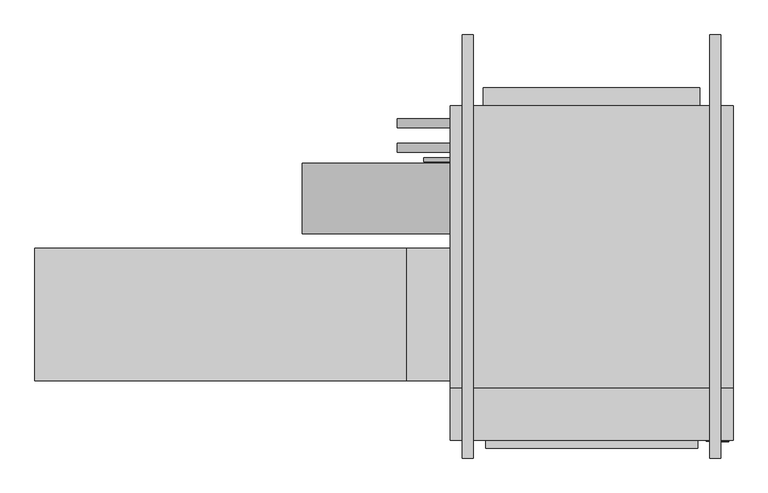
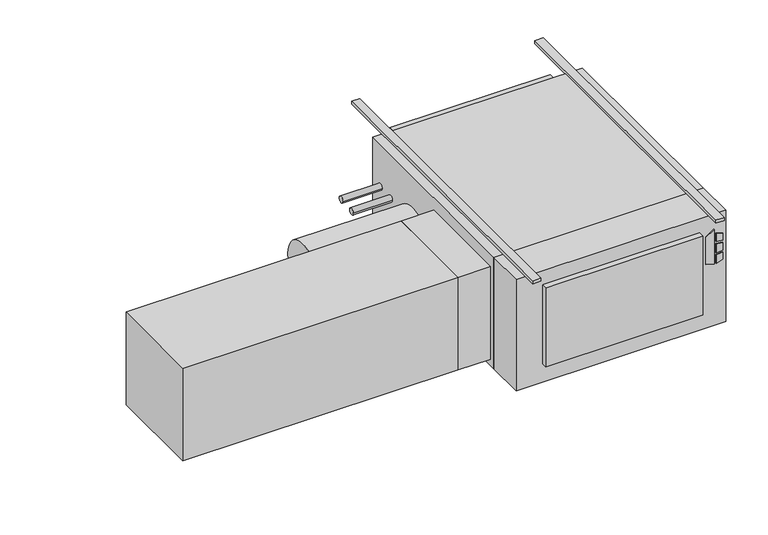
"""IFC4 building model written with IfcOpenShell, lengths in millimetres: proxy geometry."""

from ifc_helpers import new_model, si_unit, point, frame, frame_2d, origin, origin_with_axes, place, context, project, spatial, polyline, circle_curve, trimmed, segment, composite_curve, outline, extrude, source, transform, mapped, element, save


def mechanical_equipment_f4e936ba(model_context):
    return source(origin(), model_context, "Body", "SweptSolid", [
        extrude(outline(polyline([(-193.2519297, 481.0868862), (-203.2, 513.2602728), (-61.0290756, 513.2602728), (-84.0510817, 481.0868862), (-193.2519297, 481.0868862)])), frame((0.0, -797.052, 0.0), z_axis=(0.0, 1.0, 0.0), x_axis=(0.0, 0.0, 1.0)), (0.0, 0.0, 1.0), 3.175),
        extrude(outline(polyline([(-114.2526443, 520.0186058), (-117.4550368, 546.1), (-88.2261958, 546.1), (-80.1617807, 520.0186058), (-114.2526443, 520.0186058)])), frame((0.0, -797.052, 0.0), z_axis=(0.0, 1.0, 0.0), x_axis=(0.0, 0.0, 1.0)), (0.0, 0.0, 1.0), 3.175),
        extrude(outline(polyline([(-166.1161712, 546.1), (-169.7816721, 520.0186058), (-203.2, 520.0186058), (-194.5657628, 546.1), (-166.1161712, 546.1)])), frame((0.0, -797.052, 0.0), z_axis=(0.0, 1.0, 0.0), x_axis=(0.0, 0.0, 1.0)), (0.0, 0.0, 1.0), 3.175),
        extrude(outline(polyline([(-126.8010097, 546.1), (-124.5191834, 520.0186058), (-160.4567319, 520.0186058), (-157.7154669, 546.1), (-126.8010097, 546.1)])), frame((0.0, -797.052, 0.0), z_axis=(0.0, 1.0, 0.0), x_axis=(0.0, 0.0, 1.0)), (0.0, 0.0, 1.0), 3.175),
        extrude(outline(polyline([(558.8, -793.877), (-254.0, -793.877), (-254.0, -644.525), (558.8, -644.525), (558.8, -793.877)])), frame((0.0, 0.0, -457.2), z_axis=(0.0, 0.0, 1.0), x_axis=(1.0, 0.0, 0.0)), (0.0, 0.0, 1.0), 457.2),
        extrude(outline(polyline([(457.2, -816.229), (-152.4, -816.229), (-152.4, -793.877), (457.2, -793.877), (457.2, -816.229)])), frame((0.0, 0.0, -381.0), z_axis=(0.0, 0.0, 1.0), x_axis=(1.0, 0.0, 0.0)), (0.0, 0.0, 1.0), 323.85),
        extrude(outline(polyline([(-1447.8, -622.3), (-1447.8, -241.3), (-381.0, -241.3), (-381.0, -622.3), (-1447.8, -622.3)])), frame((0.0, 0.0, -431.8), z_axis=(0.0, 0.0, 1.0), x_axis=(1.0, 0.0, 0.0)), (0.0, 0.0, 1.0), 381.0),
        extrude(outline(polyline([(-254.0, -241.3), (-254.0, -622.3), (-381.0, -622.3), (-381.0, -241.3), (-254.0, -241.3)])), frame((0.0, 0.0, -431.8), z_axis=(0.0, 0.0, 1.0), x_axis=(1.0, 0.0, 0.0)), (0.0, 0.0, 1.0), 381.0),
        extrude(outline(composite_curve([segment(trimmed(circle_curve(frame_2d((-98.4896516, -228.6360165)), 101.6), [point((-200.0896516, -228.6360165))], [point((3.1103484, -228.6360165))], False, "CARTESIAN"), True, "CONTINUOUS"), segment(trimmed(circle_curve(frame_2d((-98.4896516, -228.6360165)), 101.6), [point((3.1103484, -228.6360165))], [point((-200.0896516, -228.6360165))], False, "CARTESIAN"), True, "CONTINUOUS")], self_intersect=False)), frame((-679.45, 0.0, 0.0), z_axis=(1.0, 0.0, 0.0), x_axis=(0.0, 1.0, 0.0)), (0.0, 0.0, 1.0), 425.45),
        extrude(outline(composite_curve([segment(trimmed(circle_curve(frame_2d((47.625, -177.8)), 12.7), [point((34.925, -177.8))], [point((60.325, -177.8))], False, "CARTESIAN"), True, "CONTINUOUS"), segment(trimmed(circle_curve(frame_2d((47.625, -177.8)), 12.7), [point((60.325, -177.8))], [point((34.925, -177.8))], False, "CARTESIAN"), True, "CONTINUOUS")], self_intersect=False)), frame((-406.4, 0.0, 0.0), z_axis=(1.0, 0.0, 0.0), x_axis=(0.0, 1.0, 0.0)), (0.0, 0.0, 1.0), 152.4),
        extrude(outline(composite_curve([segment(trimmed(circle_curve(frame_2d((117.475, -171.45)), 12.7), [point((104.775, -171.45))], [point((130.175, -171.45))], False, "CARTESIAN"), True, "CONTINUOUS"), segment(trimmed(circle_curve(frame_2d((117.475, -171.45)), 12.7), [point((130.175, -171.45))], [point((104.775, -171.45))], False, "CARTESIAN"), True, "CONTINUOUS")], self_intersect=False)), frame((-406.4, 0.0, 0.0), z_axis=(1.0, 0.0, 0.0), x_axis=(0.0, 1.0, 0.0)), (0.0, 0.0, 1.0), 152.4),
        extrude(outline(composite_curve([segment(trimmed(circle_curve(frame_2d((12.7, -409.575)), 6.35), [point((6.35, -409.575))], [point((19.05, -409.575))], False, "CARTESIAN"), True, "CONTINUOUS"), segment(trimmed(circle_curve(frame_2d((12.7, -409.575)), 6.35), [point((19.05, -409.575))], [point((6.35, -409.575))], False, "CARTESIAN"), True, "CONTINUOUS")], self_intersect=False)), frame((-330.2, 0.0, 0.0), z_axis=(1.0, 0.0, 0.0), x_axis=(0.0, 1.0, 0.0)), (0.0, 0.0, 1.0), 76.2),
        extrude(outline(polyline([(558.8, 168.275), (558.8, -644.525), (-254.0, -644.525), (-254.0, 168.275), (558.8, 168.275)])), frame((0.0, 0.0, -457.2), z_axis=(0.0, 0.0, 1.0), x_axis=(1.0, 0.0, 0.0)), (0.0, 0.0, 1.0), 457.2),
        extrude(outline(polyline([(-158.75, 219.075), (463.55, 219.075), (463.55, 168.275), (-158.75, 168.275), (-158.75, 219.075)])), frame((0.0, 0.0, -381.0), z_axis=(0.0, 0.0, 1.0), x_axis=(1.0, 0.0, 0.0)), (0.0, 0.0, 1.0), 355.6),
        extrude(outline(polyline([(-187.325, 371.475), (-187.325, -844.677), (-219.075, -844.677), (-219.075, 371.475), (-187.325, 371.475)])), origin_with_axes(), (0.0, 0.0, 1.0), 12.7),
        extrude(outline(polyline([(523.875, 371.475), (523.875, -844.677), (492.125, -844.677), (492.125, 371.475), (523.875, 371.475)])), origin_with_axes(), (0.0, 0.0, 1.0), 12.7),
    ])


if __name__ == "__main__":
    model = new_model("IFC4")
    model_context = context("Model", 3, world=origin())
    ifc_project = project(units=[si_unit("LENGTHUNIT", "METRE", prefix="MILLI")], contexts=[model_context])
    site = spatial("IfcSite", under=ifc_project)
    building = spatial("IfcBuilding", under=site)
    placement = place(None, origin())
    mechanical_equipment_shape = mechanical_equipment_f4e936ba(model_context)
    element("IfcBuildingElementProxy", 1, Name="High_Capacity_Horizontal_Cabinet_Fan_Coil_Unit_-_HTY_-_IEC_-_2 Pipe, Elec Heat_LH Side_2022 : Size 10 - 277v/60Hz/1Ph - 8/0 Coil 7.0kW - 8\" AirIn", ObjectType="High_Capacity_Horizontal_Cabinet_Fan_Coil_Unit_-_HTY_-_IEC_-_2 Pipe, Elec Heat_LH Side_2022 : Size 10 - 277v/60Hz/1Ph - 8/0 Coil 7.0kW - 8\" AirIn", at=placement, inside=building, context=model_context, shape_type="MappedRepresentation", body=[
        mapped(mechanical_equipment_shape, transform((0.0, 0.0, 0.0), x_axis=(1.0, 0.0, 0.0), y_axis=(0.0, 1.0, 0.0), z_axis=(0.0, 0.0, 1.0))),
    ])
    save(model, "model.ifc")
